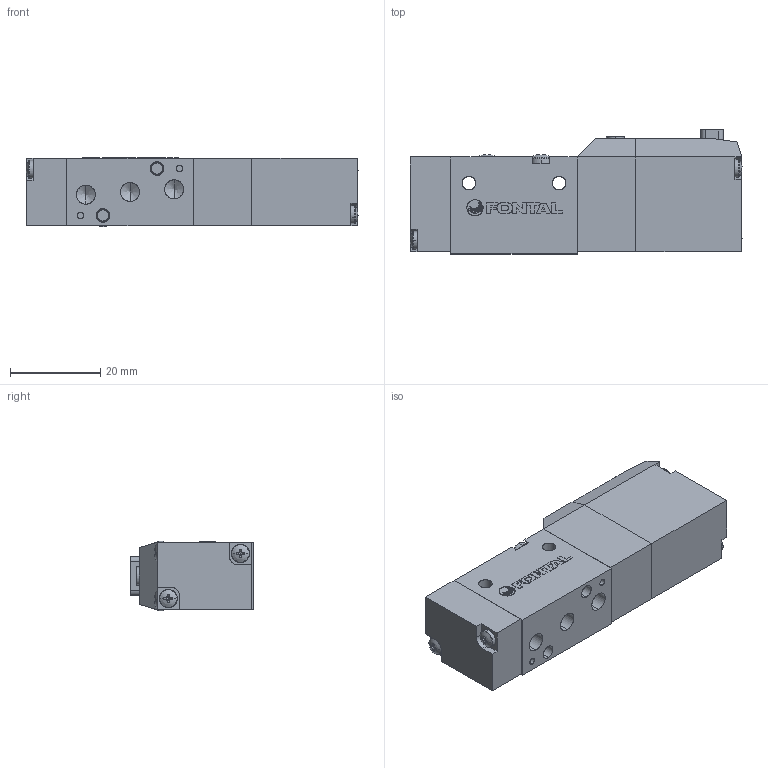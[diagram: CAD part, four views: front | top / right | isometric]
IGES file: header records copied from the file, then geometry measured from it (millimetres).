
Start section: SolidWorks IGES file using analytic representation for surfaces
Global section: file name: D:\Custom\3D繪製\PC\RC5\RCS245#-M5-#-L-#.IGS,1; native system: 5HSolidWorks 2014; preprocessor: SolidWorks 2014; author: Chieh_Lu; date: 150809.173056; units: millimetre
Bounding box: 73.64 x 27.5 x 15.4 mm (x, y, z)
Surface area: 11166 mm2 (no closed solid volume)
Topology: 0 solids, 0 shells, 474 faces, 4306 edges, 4284 vertices
Faces by surface type: bspline 291, revolution 183
